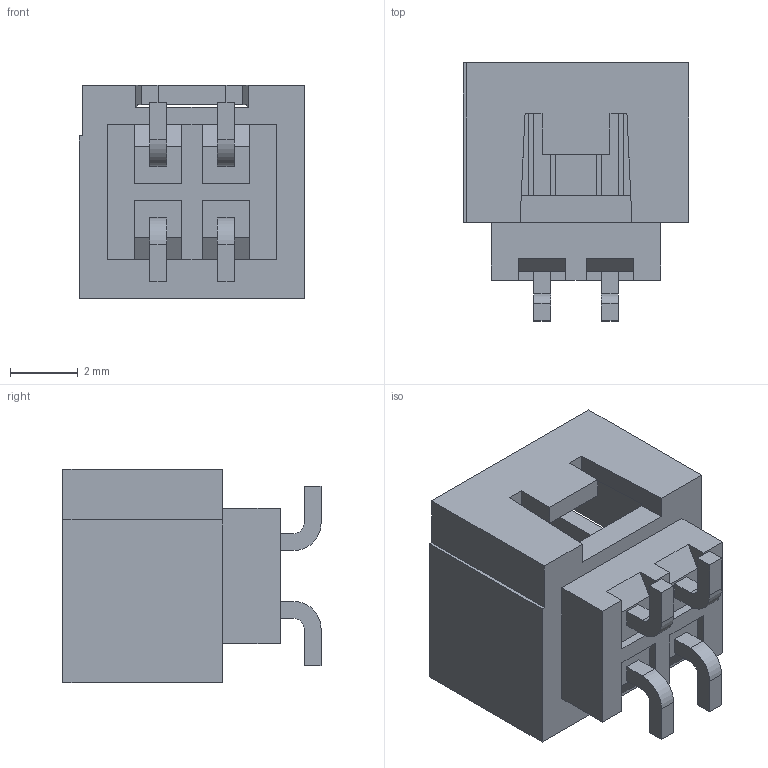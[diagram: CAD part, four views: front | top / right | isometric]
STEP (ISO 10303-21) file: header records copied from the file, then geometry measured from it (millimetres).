
FILE_DESCRIPTION((''),'2;1');
FILE_NAME('1511181004','2019-08-20T',('gga'),(''),'PRO/ENGINEER BY PARAMETRIC TECHNOLOGY CORPORATION, 2016010','PRO/ENGINEER BY PARAMETRIC TECHNOLOGY CORPORATION, 2016010','');
FILE_SCHEMA(('CONFIG_CONTROL_DESIGN'));
Length unit declared in the file: millimetre
Products named in the file (1): 1511181004
Bounding box: 6.65 x 7.6 x 6.3 mm (x, y, z)
Volume: 130.2 mm3; surface area: 370.2 mm2
Topology: 1 solids, 1 shells, 137 faces, 394 edges, 268 vertices
Faces by surface type: plane 129, cylinder 8
Entity records: 4439 total; most frequent: CARTESIAN_POINT 784, ORIENTED_EDGE 756, DIRECTION 686, VECTOR 378, LINE 378, EDGE_CURVE 378, VERTEX_POINT 252, AXIS2_PLACEMENT_3D 154
